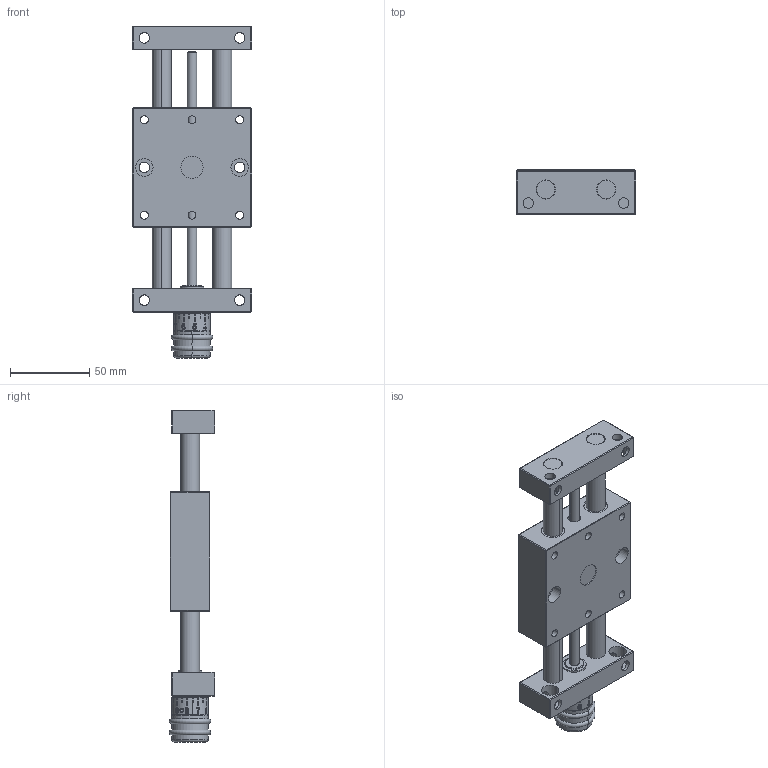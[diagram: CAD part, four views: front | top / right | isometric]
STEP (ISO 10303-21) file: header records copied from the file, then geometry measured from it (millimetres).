
FILE_DESCRIPTION (( 'STEP AP203' ), '1' );
FILE_NAME ('PT7312-SK-Positioniertisch.STEP', '2016-01-15T17:27:21', ( '' ), ( '' ), 'SwSTEP 2.0', 'SolidWorks 2014', '' );
FILE_SCHEMA (( 'CONFIG_CONTROL_DESIGN' ));
Length unit declared in the file: millimetre
Products named in the file (3): PT12-000-02-Schlitten-komplett_n_Standard; PT7312-SK-Positioniertisch; PT7312-000-01-Festteil-SK_n_Standard
Assembly tree (2 placements, depth 2):
  PT7312-SK-Positioniertisch
    PT7312-000-01-Festteil-SK_n_Standard
    PT12-000-02-Schlitten-komplett_n_Standard
Bounding box: 75 x 28.52 x 208.89 mm (x, y, z)
Volume: 213899.6 mm3; surface area: 66157.1 mm2
Topology: 2 solids, 6 shells, 665 faces, 1619 edges, 1020 vertices
Faces by surface type: plane 260, cylinder 197, bspline 102, cone 84, torus 20, sphere 2
Entity records: 34945 total; most frequent: CARTESIAN_POINT 19662, ORIENTED_EDGE 3226, DIRECTION 2855, EDGE_CURVE 1613, AXIS2_PLACEMENT_3D 1102, VERTEX_POINT 1020, EDGE_LOOP 785, ADVANCED_FACE 665
